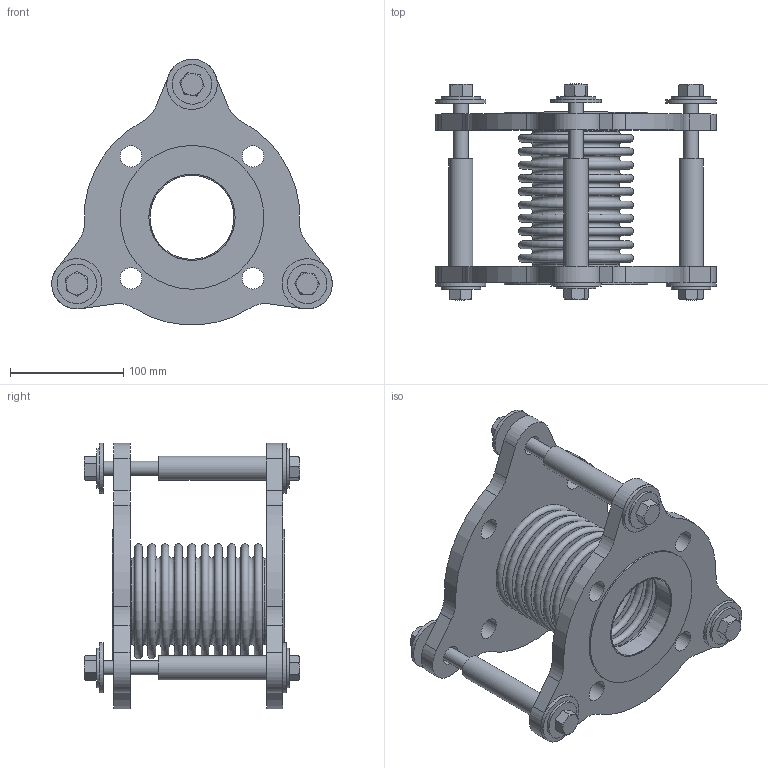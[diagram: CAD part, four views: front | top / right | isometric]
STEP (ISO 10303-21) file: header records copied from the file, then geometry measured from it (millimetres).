
FILE_DESCRIPTION(/* description */ (''),/* implementation_level */ '2;1');
FILE_NAME(/* name */ 'C:\001_Work\Designs\RFB\RFB-3x6.stp',/* time_stamp */ '2016-04-29T08:42:09-04:00',/* author */ ('rramoutar'),/* organization */ ('Mason Industries Inc.'),/* preprocessor_version */ 'ST-DEVELOPER v15.6',/* originating_system */ 'Autodesk Inventor 2015',/* authorisation */ '');
FILE_SCHEMA (('CONFIG_CONTROL_DESIGN'));
Length unit declared in the file: inch
Products named in the file (1): 3in_RFB_150FLANGE
Bounding box: 247.92 x 190.51 x 234.64 mm (x, y, z)
Volume: 1115188.4 mm3; surface area: 448205.8 mm2
Topology: 24 solids, 24 shells, 325 faces, 655 edges, 423 vertices
Faces by surface type: plane 141, cylinder 82, cone 60, torus 42
Full cylindrical faces by diameter (mm): 10.592 x3, 12.7 x9, 14.287 x6, 15.799 x3, 17.462 x6, 19.05 x8, 21.336 x3, 34.925 x6, 44.45 x6, 74.168 x2, 76.2 x4, 127 x2
Entity records: 8211 total; most frequent: CARTESIAN_POINT 1468, DIRECTION 1374, ORIENTED_EDGE 1052, AXIS2_PLACEMENT_3D 630, EDGE_LOOP 546, EDGE_CURVE 526, VERTEX_POINT 400, STYLED_ITEM 349
